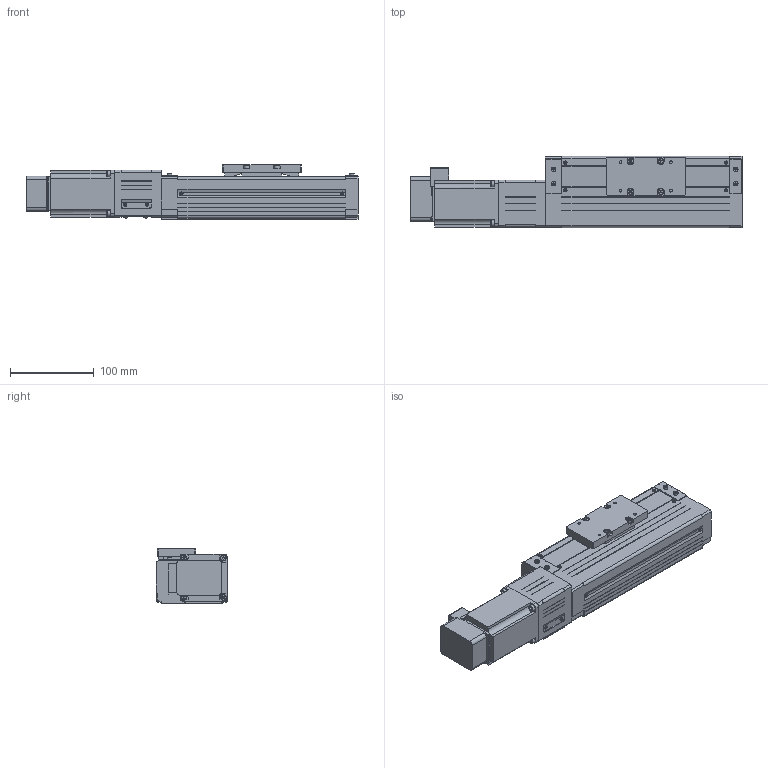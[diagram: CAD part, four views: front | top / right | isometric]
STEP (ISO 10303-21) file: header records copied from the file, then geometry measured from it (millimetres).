
FILE_DESCRIPTION((''),'2;1');
FILE_NAME('D:\製品 (図面)\カタログ用3D\SU部品\SU85×65\ダウンロード用\SU85×65-CM30\SU85×65-100-CM30.stp','2011-07-02T13:26:06',('Tsuchiya'),(''),'Autodesk Inventor 10','Autodesk Inventor 10','');
FILE_SCHEMA(('AUTOMOTIVE_DESIGN { 1 0 10303 214 1 1 1 1 }'));
Length unit declared in the file: millimetre
Products named in the file (4): SU85×65-100-CM30; SU85×65-100-CM301; SU85×65-100-CM302; SU85×65-100-CM303
Assembly tree (3 placements, depth 2):
  SU85×65-100-CM30
    SU85×65-100-CM301
    SU85×65-100-CM302
    SU85×65-100-CM303
Bounding box: 396.5 x 85 x 65 mm (x, y, z)
Volume: 929920.9 mm3; surface area: 227279.1 mm2
Topology: 9 solids, 9 shells, 962 faces, 2534 edges, 1638 vertices
Faces by surface type: plane 798, cylinder 124, cone 24, torus 12, bspline 4
Full cylindrical faces by diameter (mm): 3.242 x8, 4 x4, 4.134 x4, 4.5 x4, 5.5 x4, 6 x1, 6.35 x1, 7 x8, 8 x1, 11.5 x1, 12 x1, 13 x1, 38.1 x2, 43 x1
Entity records: 29311 total; most frequent: CARTESIAN_POINT 5858, ORIENTED_EDGE 4838, DIRECTION 4616, EDGE_CURVE 2419, VECTOR 1924, LINE 1924, VERTEX_POINT 1604, AXIS2_PLACEMENT_3D 1346
